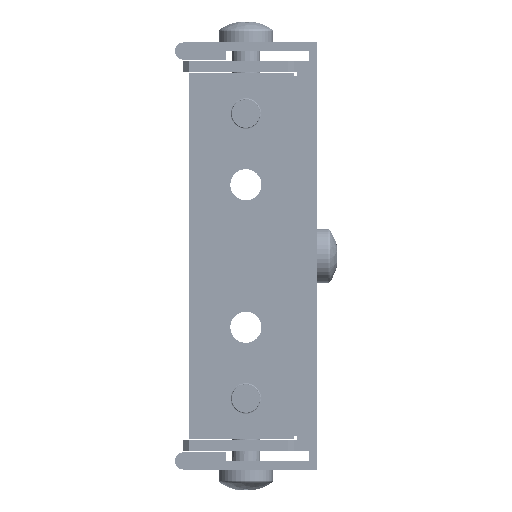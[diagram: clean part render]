
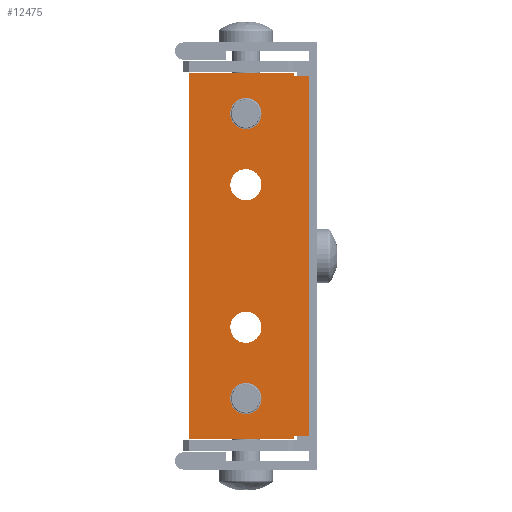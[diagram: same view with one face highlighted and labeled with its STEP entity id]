
A CAD part, front view. The second image highlights one B-rep face of the part: STEP entity #12475.
In plain terms, the highlighted planar face has unit normal (0, -1, 0).
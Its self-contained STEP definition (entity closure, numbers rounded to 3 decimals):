
#11738 = VERTEX_POINT('',#11739);
#11739 = CARTESIAN_POINT('',(-359.75,-1050.,-12.5));
#11745 = EDGE_CURVE('',#11738,#11746,#11748,.T.);
#11746 = VERTEX_POINT('',#11747);
#11747 = CARTESIAN_POINT('',(-365.25,-1050.,-12.5));
#11748 = CIRCLE('',#11749,2.75);
#11749 = AXIS2_PLACEMENT_3D('',#11750,#11751,#11752);
#11750 = CARTESIAN_POINT('',(-362.5,-1050.,-12.5));
#11751 = DIRECTION('',(0.,1.,0.));
#11752 = DIRECTION('',(1.,0.,0.));
#11780 = VERTEX_POINT('',#11781);
#11781 = CARTESIAN_POINT('',(-359.75,-1050.,-50.));
#11787 = EDGE_CURVE('',#11780,#11788,#11790,.T.);
#11788 = VERTEX_POINT('',#11789);
#11789 = CARTESIAN_POINT('',(-365.25,-1050.,-50.));
#11790 = CIRCLE('',#11791,2.75);
#11791 = AXIS2_PLACEMENT_3D('',#11792,#11793,#11794);
#11792 = CARTESIAN_POINT('',(-362.5,-1050.,-50.));
#11793 = DIRECTION('',(0.,1.,0.));
#11794 = DIRECTION('',(-1.,0.,0.));
#11822 = VERTEX_POINT('',#11823);
#11823 = CARTESIAN_POINT('',(-359.75,-1050.,-62.5));
#11829 = EDGE_CURVE('',#11822,#11830,#11832,.T.);
#11830 = VERTEX_POINT('',#11831);
#11831 = CARTESIAN_POINT('',(-365.25,-1050.,-62.5));
#11832 = CIRCLE('',#11833,2.75);
#11833 = AXIS2_PLACEMENT_3D('',#11834,#11835,#11836);
#11834 = CARTESIAN_POINT('',(-362.5,-1050.,-62.5));
#11835 = DIRECTION('',(0.,1.,0.));
#11836 = DIRECTION('',(-1.,0.,0.));
#11864 = VERTEX_POINT('',#11865);
#11865 = CARTESIAN_POINT('',(-359.75,-1050.,-25.));
#11871 = EDGE_CURVE('',#11864,#11872,#11874,.T.);
#11872 = VERTEX_POINT('',#11873);
#11873 = CARTESIAN_POINT('',(-365.25,-1050.,-25.));
#11874 = CIRCLE('',#11875,2.75);
#11875 = AXIS2_PLACEMENT_3D('',#11876,#11877,#11878);
#11876 = CARTESIAN_POINT('',(-362.5,-1050.,-25.));
#11877 = DIRECTION('',(0.,1.,0.));
#11878 = DIRECTION('',(1.,0.,0.));
#12134 = EDGE_CURVE('',#12135,#12137,#12139,.T.);
#12135 = VERTEX_POINT('',#12136);
#12136 = CARTESIAN_POINT('',(-354.1,-1050.,-5.35)
  );
#12137 = VERTEX_POINT('',#12138);
#12138 = CARTESIAN_POINT('',(-372.5,-1050.,-5.35)
  );
#12139 = LINE('',#12140,#12141);
#12140 = CARTESIAN_POINT('',(-354.1,-1050.,-5.35)
  );
#12141 = VECTOR('',#12142,1.);
#12142 = DIRECTION('',(-1.,0.,0.));
#12174 = EDGE_CURVE('',#12175,#12135,#12177,.T.);
#12175 = VERTEX_POINT('',#12176);
#12176 = CARTESIAN_POINT('',(-354.1,-1050.,-5.85)
  );
#12177 = LINE('',#12178,#12179);
#12178 = CARTESIAN_POINT('',(-354.1,-1050.,-5.85)
  );
#12179 = VECTOR('',#12180,1.);
#12180 = DIRECTION('',(0.,0.,1.));
#12258 = EDGE_CURVE('',#12259,#12261,#12263,.T.);
#12259 = VERTEX_POINT('',#12260);
#12260 = CARTESIAN_POINT('',(-354.1,-1050.,-69.65));
#12261 = VERTEX_POINT('',#12262);
#12262 = CARTESIAN_POINT('',(-372.5,-1050.,-69.65));
#12263 = LINE('',#12264,#12265);
#12264 = CARTESIAN_POINT('',(-354.1,-1050.,-69.65));
#12265 = VECTOR('',#12266,1.);
#12266 = DIRECTION('',(-1.,0.,0.));
#12298 = EDGE_CURVE('',#12299,#12259,#12301,.T.);
#12299 = VERTEX_POINT('',#12300);
#12300 = CARTESIAN_POINT('',(-354.1,-1050.,-69.15));
#12301 = LINE('',#12302,#12303);
#12302 = CARTESIAN_POINT('',(-354.1,-1050.,-69.15));
#12303 = VECTOR('',#12304,1.);
#12304 = DIRECTION('',(0.,0.,-1.));
#12389 = EDGE_CURVE('',#12261,#12137,#12390,.T.);
#12390 = LINE('',#12391,#12392);
#12391 = CARTESIAN_POINT('',(-372.5,-1050.,-5.85)
  );
#12392 = VECTOR('',#12393,1.);
#12393 = DIRECTION('',(0.,0.,1.));
#12475 = ADVANCED_FACE('',(#12476,#12486,#12496,#12506,#12516),#12545,
  .T.);
#12476 = FACE_BOUND('',#12477,.T.);
#12477 = EDGE_LOOP('',(#12478,#12479));
#12478 = ORIENTED_EDGE('',*,*,#11871,.T.);
#12479 = ORIENTED_EDGE('',*,*,#12480,.T.);
#12480 = EDGE_CURVE('',#11872,#11864,#12481,.T.);
#12481 = CIRCLE('',#12482,2.75);
#12482 = AXIS2_PLACEMENT_3D('',#12483,#12484,#12485);
#12483 = CARTESIAN_POINT('',(-362.5,-1050.,-25.));
#12484 = DIRECTION('',(0.,1.,0.));
#12485 = DIRECTION('',(1.,0.,0.));
#12486 = FACE_BOUND('',#12487,.T.);
#12487 = EDGE_LOOP('',(#12488,#12489));
#12488 = ORIENTED_EDGE('',*,*,#11829,.T.);
#12489 = ORIENTED_EDGE('',*,*,#12490,.T.);
#12490 = EDGE_CURVE('',#11830,#11822,#12491,.T.);
#12491 = CIRCLE('',#12492,2.75);
#12492 = AXIS2_PLACEMENT_3D('',#12493,#12494,#12495);
#12493 = CARTESIAN_POINT('',(-362.5,-1050.,-62.5));
#12494 = DIRECTION('',(0.,1.,0.));
#12495 = DIRECTION('',(-1.,0.,0.));
#12496 = FACE_BOUND('',#12497,.T.);
#12497 = EDGE_LOOP('',(#12498,#12499));
#12498 = ORIENTED_EDGE('',*,*,#11787,.T.);
#12499 = ORIENTED_EDGE('',*,*,#12500,.T.);
#12500 = EDGE_CURVE('',#11788,#11780,#12501,.T.);
#12501 = CIRCLE('',#12502,2.75);
#12502 = AXIS2_PLACEMENT_3D('',#12503,#12504,#12505);
#12503 = CARTESIAN_POINT('',(-362.5,-1050.,-50.));
#12504 = DIRECTION('',(0.,1.,0.));
#12505 = DIRECTION('',(-1.,0.,0.));
#12506 = FACE_BOUND('',#12507,.T.);
#12507 = EDGE_LOOP('',(#12508,#12509));
#12508 = ORIENTED_EDGE('',*,*,#11745,.T.);
#12509 = ORIENTED_EDGE('',*,*,#12510,.T.);
#12510 = EDGE_CURVE('',#11746,#11738,#12511,.T.);
#12511 = CIRCLE('',#12512,2.75);
#12512 = AXIS2_PLACEMENT_3D('',#12513,#12514,#12515);
#12513 = CARTESIAN_POINT('',(-362.5,-1050.,-12.5));
#12514 = DIRECTION('',(0.,1.,0.));
#12515 = DIRECTION('',(1.,0.,0.));
#12516 = FACE_BOUND('',#12517,.T.);
#12517 = EDGE_LOOP('',(#12518,#12519,#12520,#12521,#12529,#12537,#12543,
    #12544));
#12518 = ORIENTED_EDGE('',*,*,#12389,.F.);
#12519 = ORIENTED_EDGE('',*,*,#12258,.F.);
#12520 = ORIENTED_EDGE('',*,*,#12298,.F.);
#12521 = ORIENTED_EDGE('',*,*,#12522,.T.);
#12522 = EDGE_CURVE('',#12299,#12523,#12525,.T.);
#12523 = VERTEX_POINT('',#12524);
#12524 = CARTESIAN_POINT('',(-351.5,-1050.,-69.15));
#12525 = LINE('',#12526,#12527);
#12526 = CARTESIAN_POINT('',(-351.5,-1050.,-69.15));
#12527 = VECTOR('',#12528,1.);
#12528 = DIRECTION('',(1.,0.,0.));
#12529 = ORIENTED_EDGE('',*,*,#12530,.T.);
#12530 = EDGE_CURVE('',#12523,#12531,#12533,.T.);
#12531 = VERTEX_POINT('',#12532);
#12532 = CARTESIAN_POINT('',(-351.5,-1050.,-5.85)
  );
#12533 = LINE('',#12534,#12535);
#12534 = CARTESIAN_POINT('',(-351.5,-1050.,-37.5));
#12535 = VECTOR('',#12536,1.);
#12536 = DIRECTION('',(0.,0.,1.));
#12537 = ORIENTED_EDGE('',*,*,#12538,.F.);
#12538 = EDGE_CURVE('',#12175,#12531,#12539,.T.);
#12539 = LINE('',#12540,#12541);
#12540 = CARTESIAN_POINT('',(-354.1,-1050.,-5.85)
  );
#12541 = VECTOR('',#12542,1.);
#12542 = DIRECTION('',(1.,0.,0.));
#12543 = ORIENTED_EDGE('',*,*,#12174,.T.);
#12544 = ORIENTED_EDGE('',*,*,#12134,.T.);
#12545 = PLANE('',#12546);
#12546 = AXIS2_PLACEMENT_3D('',#12547,#12548,#12549);
#12547 = CARTESIAN_POINT('',(-351.5,-1050.,-37.5));
#12548 = DIRECTION('',(0.,-1.,0.));
#12549 = DIRECTION('',(0.,0.,1.));
